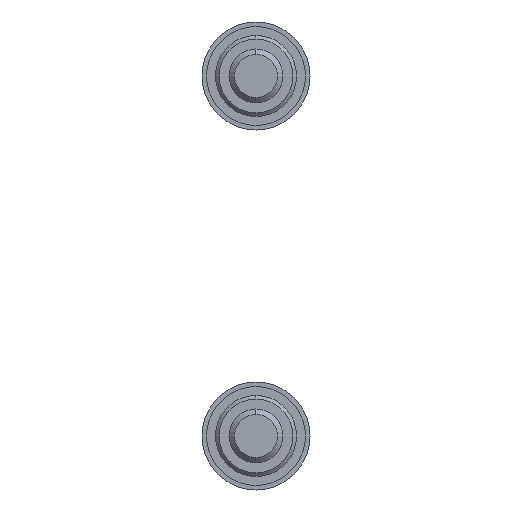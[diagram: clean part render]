
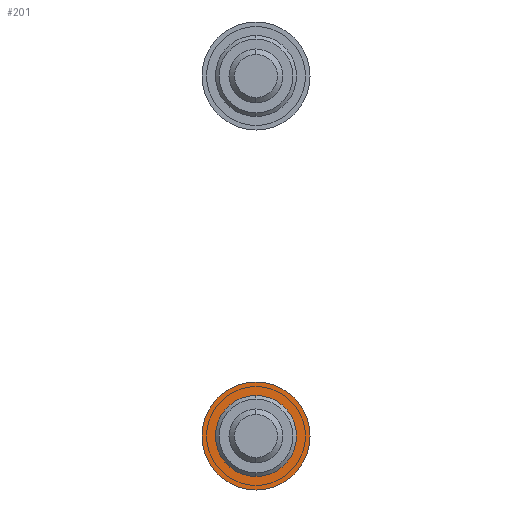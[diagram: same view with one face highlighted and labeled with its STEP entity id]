
A CAD part, left-side view. The second image highlights one B-rep face of the part: STEP entity #201.
In plain terms, the highlighted planar face has unit normal (-1, 0, 0) as drawn and (0, 1, 0) by its records, which use the part's own axes.
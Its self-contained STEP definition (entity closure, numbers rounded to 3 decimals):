
#201=ADVANCED_FACE('',(#503,#504),#502,.T.);
#502=PLANE('',#1171);
#503=FACE_OUTER_BOUND('',#1172,.T.);
#504=FACE_BOUND('',#1173,.T.);
#1168=CARTESIAN_POINT('',(-6.235,0.,-6.9));
#1169=DIRECTION('',(0.,1.,0.));
#1170=DIRECTION('',(0.,0.,1.));
#1171=AXIS2_PLACEMENT_3D('',#1168,#1169,#1170);
#1172=EDGE_LOOP('',(#1632,#1633));
#1173=EDGE_LOOP('',(#1634,#1635));
#1632=ORIENTED_EDGE('',*,*,#1860,.F.);
#1633=ORIENTED_EDGE('',*,*,#1861,.F.);
#1634=ORIENTED_EDGE('',*,*,#1862,.T.);
#1635=ORIENTED_EDGE('',*,*,#1863,.T.);
#1860=EDGE_CURVE('',#2267,#2268,#2269,.T.);
#1861=EDGE_CURVE('',#2268,#2267,#2275,.T.);
#1862=EDGE_CURVE('',#2281,#2282,#2283,.T.);
#1863=EDGE_CURVE('',#2282,#2281,#2289,.T.);
#2267=VERTEX_POINT('',#3042);
#2268=VERTEX_POINT('',#3043);
#2269=CIRCLE('',#3047,3.);
#2275=CIRCLE('',#3051,3.);
#2281=VERTEX_POINT('',#3052);
#2282=VERTEX_POINT('',#3053);
#2283=CIRCLE('',#3057,1.6);
#2289=CIRCLE('',#3061,1.6);
#3042=CARTESIAN_POINT('',(0.,0.,-3.));
#3043=CARTESIAN_POINT('',(0.,0.,3.));
#3044=CARTESIAN_POINT('',(0.,0.,0.));
#3045=DIRECTION('',(0.,-1.,0.));
#3046=DIRECTION('',(0.,0.,1.));
#3047=AXIS2_PLACEMENT_3D('',#3044,#3045,#3046);
#3048=CARTESIAN_POINT('',(0.,0.,0.));
#3049=DIRECTION('',(0.,-1.,0.));
#3050=DIRECTION('',(0.,0.,1.));
#3051=AXIS2_PLACEMENT_3D('',#3048,#3049,#3050);
#3052=CARTESIAN_POINT('',(0.,0.,1.6));
#3053=CARTESIAN_POINT('',(0.,0.,-1.6));
#3054=CARTESIAN_POINT('',(0.,0.,0.));
#3055=DIRECTION('',(0.,-1.,0.));
#3056=DIRECTION('',(0.,0.,1.));
#3057=AXIS2_PLACEMENT_3D('',#3054,#3055,#3056);
#3058=CARTESIAN_POINT('',(0.,0.,0.));
#3059=DIRECTION('',(0.,-1.,0.));
#3060=DIRECTION('',(0.,0.,1.));
#3061=AXIS2_PLACEMENT_3D('',#3058,#3059,#3060);
